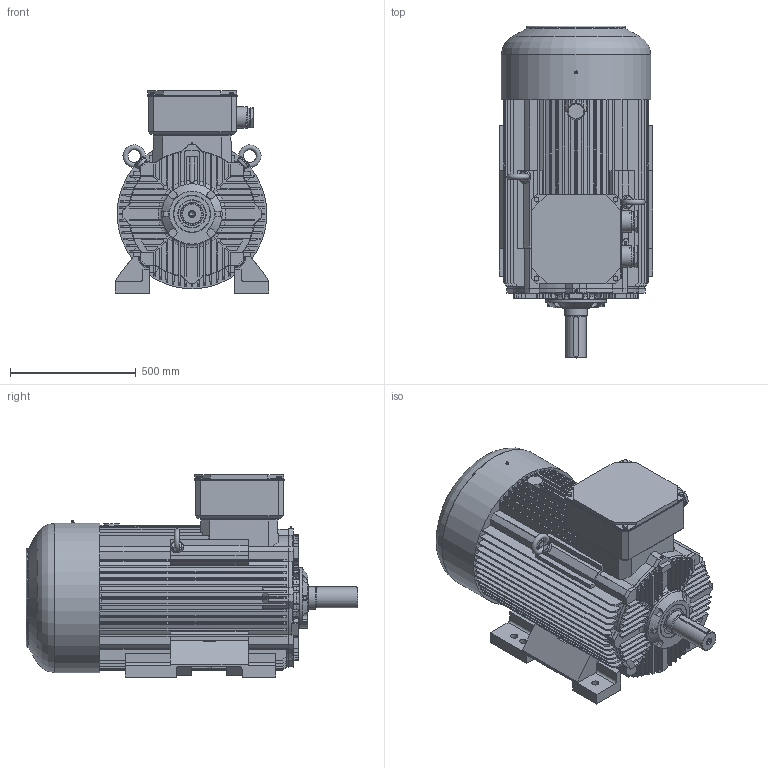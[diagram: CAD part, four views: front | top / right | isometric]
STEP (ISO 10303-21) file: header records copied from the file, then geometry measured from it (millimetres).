
FILE_DESCRIPTION( ( 'Unknown' ), '1' );
FILE_NAME( 'C:/Documents and Settings/kwalica/Pulpit/2,3 SIE paczka/3SIE 315/STP/3SIE315_M4C_M6C.stp', 'Unknown', ( 'Unknown' ), ( 'Unknown' ), 'XStep 1.0', 'Unknown', ' ' );
FILE_SCHEMA( ( 'CONFIG_CONTROL_DESIGN' ) );
Length unit declared in the file: millimetre
Products named in the file (6): 1; 2; 3; 4; 5; 6
Bounding box: 610.02 x 1320 x 804.5 mm (x, y, z)
Volume: 284376645.1 mm3; surface area: 6930006.2 mm2
Topology: 6 solids, 22 shells, 1479 faces, 4032 edges, 2652 vertices
Faces by surface type: plane 973, cylinder 307, cone 103, torus 80, bspline 16
Full cylindrical faces by diameter (mm): 1.6 x2, 5 x3, 10.106 x4, 13.835 x1, 16.63 x4, 17.294 x1, 20 x1, 21 x1, 24 x4, 28 x6, 50 x2, 55 x2, 57 x4, 65 x4, 70 x2, 71 x6, 72 x2, 72.752 x2, 76 x2, 79.999 x1, 85 x2, 89.5 x1, 90 x1, 99.4 x1, 100 x1, 111.399 x1, 112 x1, 119.4 x1, 119.999 x1, 131.399 x1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
Entity records: 55050 total; most frequent: CARTESIAN_POINT 18099, ORIENTED_EDGE 7708, DIRECTION 7391, EDGE_CURVE 3854, VERTEX_POINT 2606, AXIS2_PLACEMENT_3D 2467, LINE 2457, VECTOR 2457
